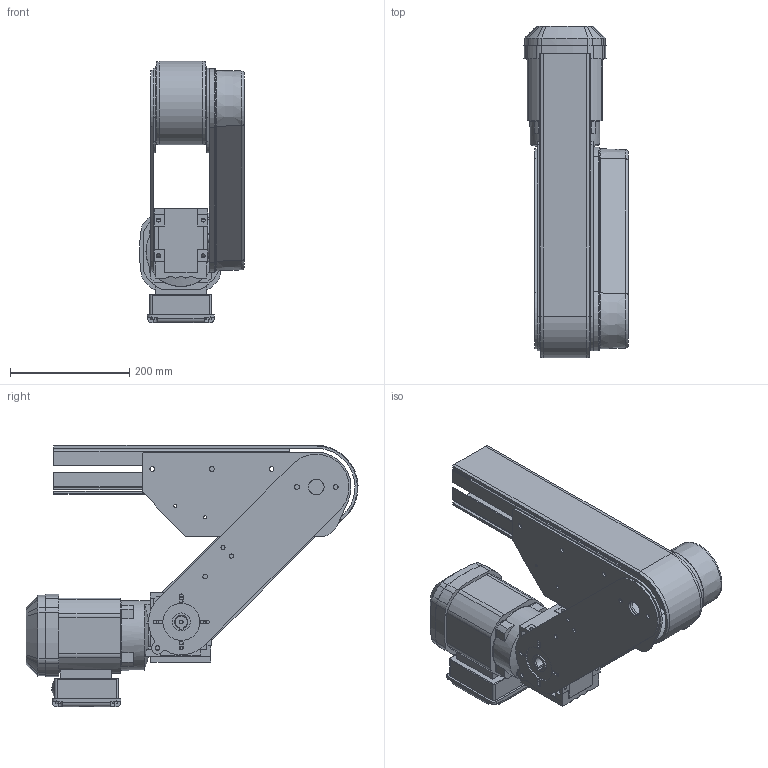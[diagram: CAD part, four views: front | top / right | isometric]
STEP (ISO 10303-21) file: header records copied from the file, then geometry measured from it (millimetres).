
FILE_DESCRIPTION((''),'2;1');
FILE_NAME('C:\Vault Klient\Projekt\Koncept konstruktion\Serie 530 Drivenhet\530-3324V.stp','2010-12-09T08:22:08',('Mathias'),(''),'Autodesk Inventor 2011','Autodesk Inventor 2011','');
FILE_SCHEMA(('AUTOMOTIVE_DESIGN { 1 0 10303 214 1 1 1 1 }'));
Length unit declared in the file: millimetre
Products named in the file (9): 530-3324V; Serie 530 Drivände; 530-1000; 830-2000; 530-3500H; 530-3500V; 900-4030; 500-3120; 900-2260
Assembly tree (9 placements, depth 3):
  530-3324V
    Serie 530 Drivände
      530-1000
      830-2000
      530-3500H
      530-3500V
    900-4030
    500-3120  x2
    900-2260
Bounding box: 175.64 x 556.74 x 438.07 mm (x, y, z)
Volume: 6021593.3 mm3; surface area: 1186413 mm2
Topology: 11 solids, 14 shells, 722 faces, 1939 edges, 1272 vertices
Faces by surface type: plane 426, cylinder 252, cone 16, bspline 16, torus 10, sphere 2
Full cylindrical faces by diameter (mm): 5 x4, 6 x9, 6.6 x8, 6.912 x4, 8 x14, 8.2 x4, 20 x1, 25 x1, 26 x4, 28 x1, 30 x2, 62 x2, 117 x1
Entity records: 22323 total; most frequent: CARTESIAN_POINT 4181, DIRECTION 3635, ORIENTED_EDGE 3556, EDGE_CURVE 1778, AXIS2_PLACEMENT_3D 1215, VECTOR 1205, LINE 1205, VERTEX_POINT 1197
